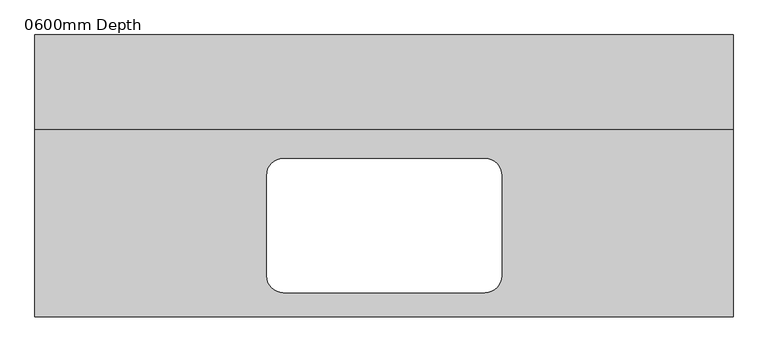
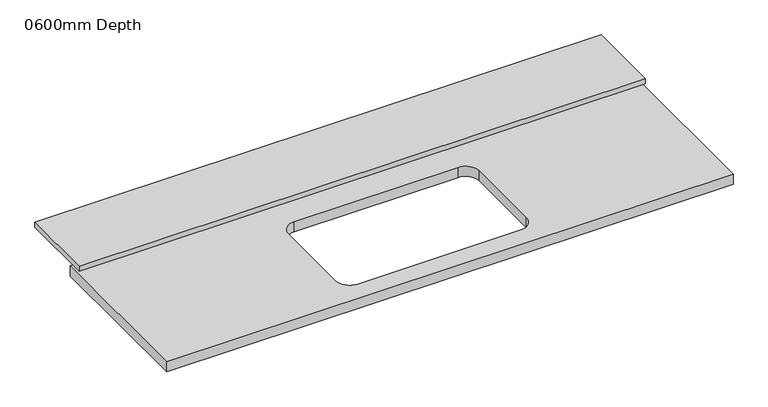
"""IFC4 building model written with IfcOpenShell, lengths in millimetres: furniture geometry, Counter Top w Sink Hole and eating strip : 0600mm Depth."""

from ifc_helpers import new_model, si_unit, point, frame, frame_2d, origin, place, context, project, spatial, polyline, circle_curve, trimmed, segment, composite_curve, outline, extrude, source, transform, mapped, element, save


def furniture_0600mm_depth_192cdec7(model_context):
    return source(origin(), model_context, "Body", "SweptSolid", [
        extrude(outline(polyline([(913.9377049, 0.0), (913.9377049, -624.68125), (-1200.4622951, -624.68125), (-1200.4622951, 0.0), (913.9377049, 0.0)]), holes=[composite_curve([segment(polyline([(161.9636028, -145.8), (-447.6363972, -145.8)]), True, "CONTINUOUS"), segment(trimmed(circle_curve(frame_2d((-447.6363972, -196.6)), 50.8), [point((-447.6363972, -145.8))], [point((-498.4363972, -196.6))], True, "CARTESIAN"), True, "CONTINUOUS"), segment(polyline([(-498.4363972, -196.6), (-498.4363972, -501.4)]), True, "CONTINUOUS"), segment(trimmed(circle_curve(frame_2d((-447.6363972, -501.4)), 50.8), [point((-498.4363972, -501.4))], [point((-447.6363972, -552.2))], True, "CARTESIAN"), True, "CONTINUOUS"), segment(polyline([(-447.6363972, -552.2), (161.9636028, -552.2)]), True, "CONTINUOUS"), segment(trimmed(circle_curve(frame_2d((161.9636028, -501.4)), 50.8), [point((161.9636028, -552.2))], [point((212.7636028, -501.4))], True, "CARTESIAN"), True, "CONTINUOUS"), segment(polyline([(212.7636028, -501.4), (212.7636028, -196.6)]), True, "CONTINUOUS"), segment(trimmed(circle_curve(frame_2d((161.9636028, -196.6)), 50.8), [point((212.7636028, -196.6))], [point((161.9636028, -145.8))], True, "CARTESIAN"), True, "CONTINUOUS")], self_intersect=False)]), frame((0.0, 0.0, 860.425), z_axis=(0.0, 0.0, 1.0), x_axis=(1.0, 0.0, 0.0)), (0.0, 0.0, 1.0), 39.6875),
        extrude(outline(polyline([(-1200.4622951, 228.6), (913.9377049, 228.6), (913.9377049, -56.6495761), (-1200.4622951, -56.6495761), (-1200.4622951, 228.6)])), frame((0.0, 0.0, 914.4), z_axis=(0.0, 0.0, 1.0), x_axis=(1.0, 0.0, 0.0)), (0.0, 0.0, 1.0), 19.05),
    ])


if __name__ == "__main__":
    model = new_model("IFC4")
    model_context = context("Model", 3, world=origin())
    ifc_project = project(units=[si_unit("LENGTHUNIT", "METRE", prefix="MILLI")], contexts=[model_context])
    site = spatial("IfcSite", under=ifc_project)
    building = spatial("IfcBuilding", under=site)
    placement = place(None, origin())
    furniture_0600mm_depth_shape = furniture_0600mm_depth_192cdec7(model_context)
    element("IfcFurniture", 1, ObjectType="Counter Top w Sink Hole and eating strip : 0600mm Depth", at=placement, inside=building, context=model_context, shape_type="MappedRepresentation", body=[
        mapped(furniture_0600mm_depth_shape, transform((0.0, 0.0, 0.0), x_axis=(1.0, 0.0, 0.0), y_axis=(0.0, 1.0, 0.0), z_axis=(0.0, 0.0, 1.0))),
    ])
    save(model, "model.ifc")
